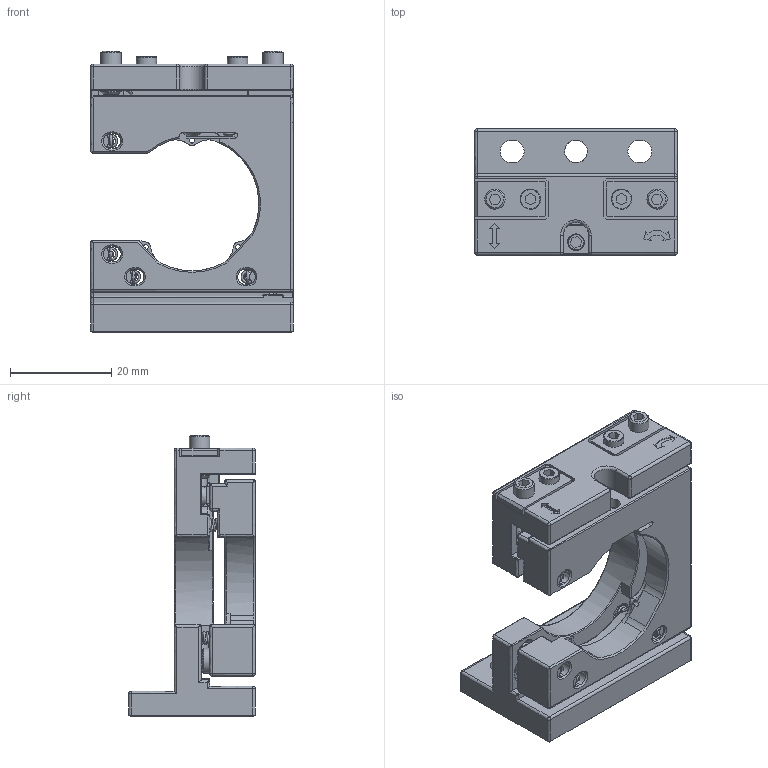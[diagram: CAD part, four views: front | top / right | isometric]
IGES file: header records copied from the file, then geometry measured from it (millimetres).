
Global section: file name: VMHV-25.4L-F_IGS; native system: Autodesk Inventor 2023; preprocessor: unknown; date: 20251016.154632; units: millimetre
Bounding box: 40 x 25 x 55.5 mm (x, y, z)
Volume: 19480.4 mm3; surface area: 14255.6 mm2
Topology: 6 solids, 12 shells, 887 faces, 2281 edges, 1405 vertices
Faces by surface type: bspline 887
